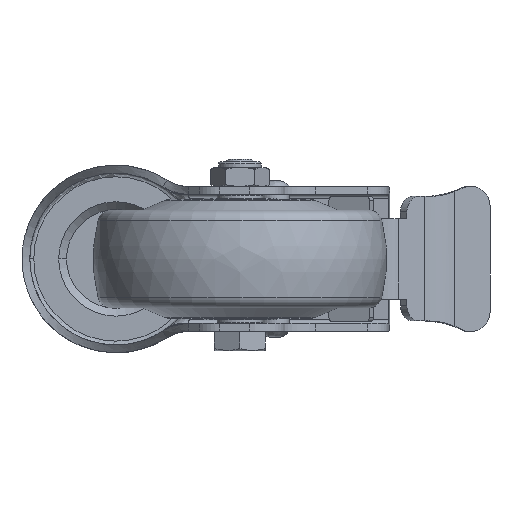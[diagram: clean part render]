
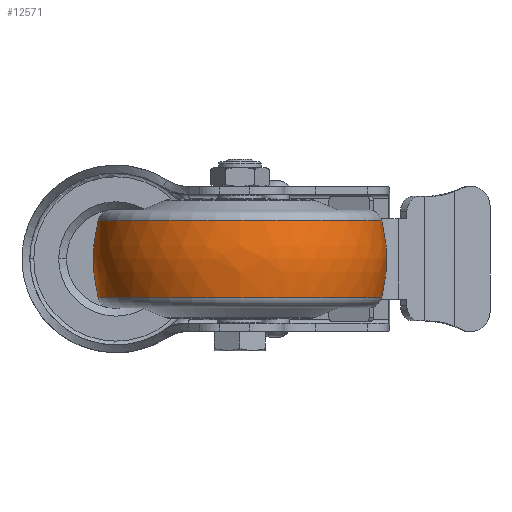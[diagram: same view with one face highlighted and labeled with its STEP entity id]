
A CAD part, front view. The second image highlights one B-rep face of the part: STEP entity #12571.
In plain terms, the highlighted free-form (B-spline) face has degree [3, 3] with [7, 4] control points.
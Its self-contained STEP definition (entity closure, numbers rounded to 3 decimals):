
#12109=CARTESIAN_POINT('',(0.,-2.5,0.));
#12110=DIRECTION('',(0.,0.,1.));
#12111=DIRECTION('',(0.247,0.969,0.));
#12112=AXIS2_PLACEMENT_3D('',#12109,#12110,#12111);
#12114=CARTESIAN_POINT('',(0.,2.5,0.));
#12115=DIRECTION('',(0.,0.,-1.));
#12116=DIRECTION('',(0.247,-0.969,0.));
#12117=AXIS2_PLACEMENT_3D('',#12114,#12115,#12116);
#12119=CARTESIAN_POINT('',(9.863,0.,0.));
#12120=DIRECTION('',(-1.,0.,0.));
#12121=DIRECTION('',(0.,1.,0.));
#12122=AXIS2_PLACEMENT_3D('',#12119,#12120,#12121);
#12134=CARTESIAN_POINT('',(-9.863,0.,0.));
#12135=DIRECTION('',(-1.,0.,0.));
#12136=DIRECTION('',(0.,1.,0.));
#12137=AXIS2_PLACEMENT_3D('',#12134,#12135,#12136);
#12414=CARTESIAN_POINT('',(9.863,36.265,0.));
#12415=CARTESIAN_POINT('',(-9.863,36.265,0.));
#12416=VERTEX_POINT('',#12414);
#12417=VERTEX_POINT('',#12415);
#12454=CARTESIAN_POINT('',(9.863,-36.265,0.));
#12455=CARTESIAN_POINT('',(-9.863,-36.265,0.));
#12456=VERTEX_POINT('',#12454);
#12457=VERTEX_POINT('',#12455);
#12534=CARTESIAN_POINT('',(-10.249,-36.093,
2.271));
#12535=CARTESIAN_POINT('',(-3.494,-37.88,
2.383));
#12536=CARTESIAN_POINT('',(3.494,-37.88,
2.383));
#12537=CARTESIAN_POINT('',(10.249,-36.093,
2.271));
#12538=CARTESIAN_POINT('',(-10.249,-37.491,
-19.941));
#12539=CARTESIAN_POINT('',(-3.494,-39.347,
-20.928));
#12540=CARTESIAN_POINT('',(3.494,-39.347,
-20.928));
#12541=CARTESIAN_POINT('',(10.249,-37.491,
-19.941));
#12542=CARTESIAN_POINT('',(-10.249,-22.256,
-36.165));
#12543=CARTESIAN_POINT('',(-3.494,-23.358,
-37.955));
#12544=CARTESIAN_POINT('',(3.494,-23.358,
-37.955));
#12545=CARTESIAN_POINT('',(10.249,-22.256,
-36.165));
#12546=CARTESIAN_POINT('',(-10.249,0.,-36.165));
#12547=CARTESIAN_POINT('',(-3.494,0.,-37.955));
#12548=CARTESIAN_POINT('',(3.494,0.,-37.955));
#12549=CARTESIAN_POINT('',(10.249,0.,-36.165));
#12550=CARTESIAN_POINT('',(-10.249,22.256,
-36.165));
#12551=CARTESIAN_POINT('',(-3.494,23.358,
-37.955));
#12552=CARTESIAN_POINT('',(3.494,23.358,
-37.955));
#12553=CARTESIAN_POINT('',(10.249,22.256,
-36.165));
#12554=CARTESIAN_POINT('',(-10.249,37.491,
-19.941));
#12555=CARTESIAN_POINT('',(-3.494,39.347,
-20.928));
#12556=CARTESIAN_POINT('',(3.494,39.347,
-20.928));
#12557=CARTESIAN_POINT('',(10.249,37.491,
-19.941));
#12558=CARTESIAN_POINT('',(-10.249,36.093,
2.271));
#12559=CARTESIAN_POINT('',(-3.494,37.88,
2.383));
#12560=CARTESIAN_POINT('',(3.494,37.88,2.383));
#12561=CARTESIAN_POINT('',(10.249,36.093,2.271));
#12562=(BOUNDED_SURFACE()B_SPLINE_SURFACE(3,3,((#12534,#12535,#12536,#12537),(
#12538,#12539,#12540,#12541),(#12542,#12543,#12544,#12545),(#12546,#12547,
#12548,#12549),(#12550,#12551,#12552,#12553),(#12554,#12555,#12556,#12557),(
#12558,#12559,#12560,#12561)),.UNSPECIFIED.,.F.,.F.,.F.)B_SPLINE_SURFACE_WITH_KNOTS((4,3,4),(4,4),(0.,1.,2.),(0.,1.),.UNSPECIFIED.)GEOMETRIC_REPRESENTATION_ITEM()RATIONAL_B_SPLINE_SURFACE(((1.207,1.181,
1.181,1.207),(0.953,0.932,
0.932,0.953),(0.953,0.932,
0.932,0.953),(1.207,1.181,
1.181,1.207),(0.953,0.932,
0.932,0.953),(0.953,0.932,
0.932,0.953),(1.207,1.181,
1.181,1.207)))REPRESENTATION_ITEM('')SURFACE());
#12563=ORIENTED_EDGE('',*,*,#12523,.T.);
#12565=ORIENTED_EDGE('',*,*,#12564,.T.);
#12566=ORIENTED_EDGE('',*,*,#12527,.F.);
#12568=ORIENTED_EDGE('',*,*,#12567,.F.);
#12569=EDGE_LOOP('',(#12563,#12565,#12566,#12568));
#12570=FACE_OUTER_BOUND('',#12569,.F.);
#12113=CIRCLE('',#12112,40.);
#12118=CIRCLE('',#12117,40.);
#12123=CIRCLE('',#12122,36.265);
#12138=CIRCLE('',#12137,36.265);
#12523=EDGE_CURVE('',#12416,#12417,#12113,.T.);
#12527=EDGE_CURVE('',#12456,#12457,#12118,.T.);
#12564=EDGE_CURVE('',#12417,#12457,#12138,.T.);
#12567=EDGE_CURVE('',#12416,#12456,#12123,.T.);
#12571=ADVANCED_FACE('',(#12570),#12562,.T.);
